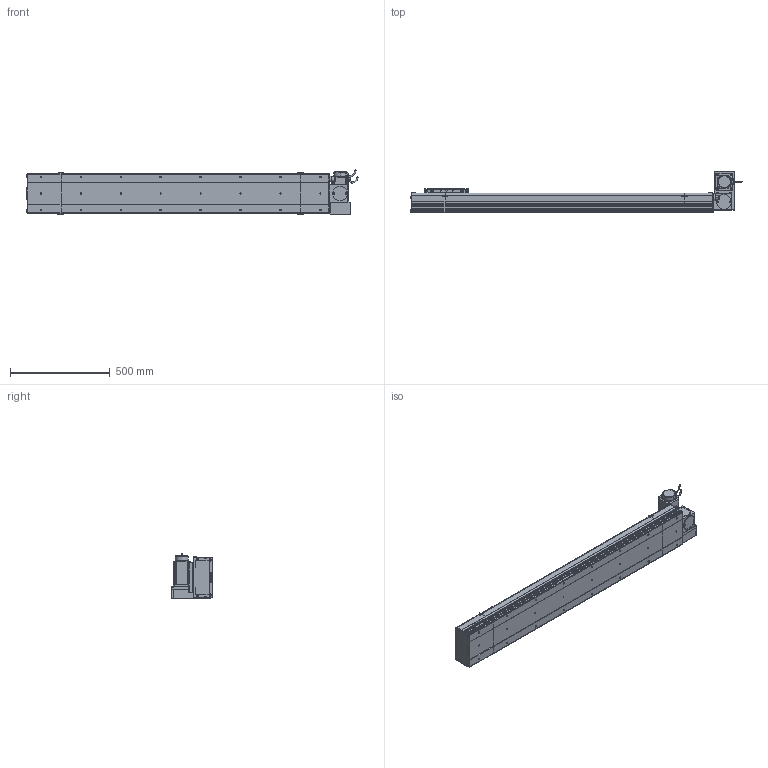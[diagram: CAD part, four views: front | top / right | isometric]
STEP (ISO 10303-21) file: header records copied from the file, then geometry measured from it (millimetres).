
FILE_DESCRIPTION (( 'STEP AP214' ), '1' );
FILE_NAME ('D20 CBH RT S1200.STEP', '2010-06-30T08:55:09', ( 'Conseil Régional Haute-Normandie' ), ( 'Conseil Régional Haute-Normandie' ), 'SwSTEP 2.0', 'SolidWorks 2010', '' );
FILE_SCHEMA (( 'AUTOMOTIVE_DESIGN' ));
Length unit declared in the file: millimetre
Products named in the file (31): Corp Tail D20 RT_Default; Head RT_Default; D20 CBH RT S1200; Couvercle RT_Default; Support moteur RT_Default; Chariot D20_Default; Plaque De Serrage D20 RT_Default; Plaque de Bout Head D20 RT_Default; vis M5 L15_Default; Moteur motionking 90BLDC125A-640; Plaque de Bout Tail D20_Default; Couvercle_Default; Corp Tail D20_Default; Support Chariot D20_Default; Plaque De Serrage D20_Default; Tail D20_Default; Couvercle S1200_Default; Corp S1200_Default; Corp D20 S1200_Default; Glissiere_Default; avant 90BLDC125A-640; codeur 90BLDC125-640; Conecteur2_Default; corps 90BLDC125A-640; Cache Support Moteur RT_Default; Rondelle Cache D20 RT_Default; vis M5 L47_Default; ecrou_Default; vis M5 L30_Default; Conecteur_Default
Assembly tree (68 placements, depth 4):
  D20 CBH RT S1200
    Tail D20_Default
      vis M5 L15_Default  x6
      Plaque de Bout Tail D20_Default
      Corp Tail D20_Default
      Plaque De Serrage D20_Default
      Couvercle_Default
    Chariot D20_Default
      Chariot D20_Default
      vis M5 L15_Default  x8
      Glissiere_Default
      Support Chariot D20_Default
    Corp D20 S1200_Default
      Corp S1200_Default
      Couvercle S1200_Default
    Head RT_Default
      vis M5 L15_Default  x14
      ecrou_Default  x4
      vis M5 L30_Default  x4
      vis M5 L47_Default  x4
      Rondelle Cache D20 RT_Default  x3
      Support moteur RT_Default
      Moteur motionking 90BLDC125A-640
        Conecteur_Default
        corps 90BLDC125A-640
        Conecteur2_Default
        avant 90BLDC125A-640
        codeur 90BLDC125-640
      Cache Support Moteur RT_Default
      Plaque de Bout Head D20 RT_Default
      Couvercle RT_Default
      Plaque De Serrage D20 RT_Default
      Corp Tail D20 RT_Default
Bounding box: 1664.45 x 206.5 x 229.7 mm (x, y, z)
Volume: 11870666.7 mm3; surface area: 2378783.4 mm2
Topology: 105 solids, 105 shells, 3781 faces, 9426 edges, 6118 vertices
Faces by surface type: plane 2116, bspline 806, cylinder 688, torus 95, cone 72, sphere 4
Entity records: 158462 total; most frequent: CARTESIAN_POINT 82157, ORIENTED_EDGE 15120, DIRECTION 11422, EDGE_CURVE 7560, VERTEX_POINT 5002, LINE 4912, VECTOR 4912, AXIS2_PLACEMENT_3D 3255
